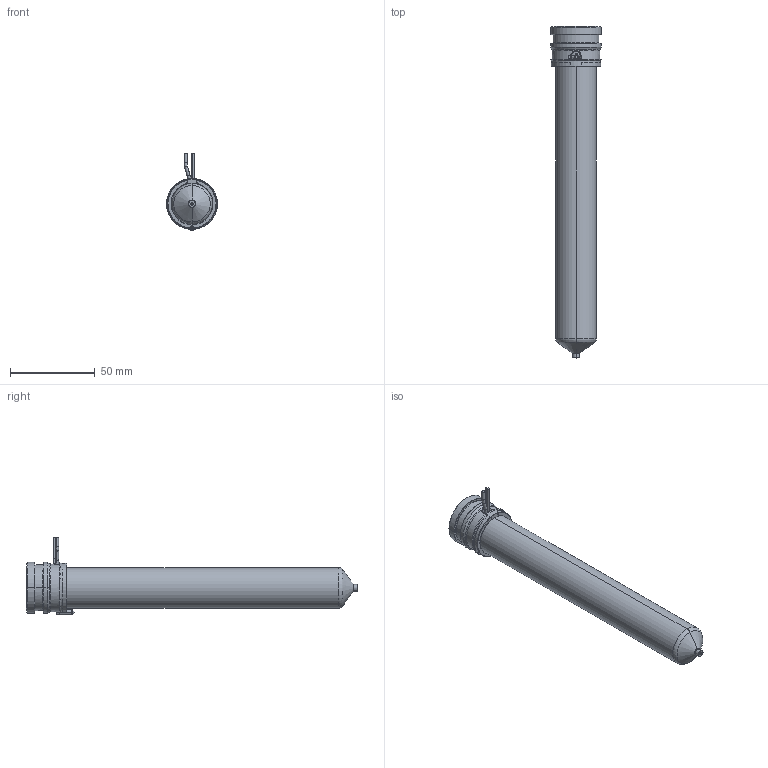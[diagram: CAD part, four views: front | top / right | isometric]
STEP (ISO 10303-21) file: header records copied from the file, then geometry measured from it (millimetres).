
FILE_DESCRIPTION((''),'2;1');
FILE_NAME('MPN-10-29-VP4-176-A','2026-02-05T12:43:28',('UPTIO'),('Thermoplay S.p.A.'),'CREO PARAMETRIC BY PTC INC, 2023494','CREO PARAMETRIC BY PTC INC, 2023494','');
FILE_SCHEMA(('CONFIG_CONTROL_DESIGN','SHAPE_APPEARANCE_LAYERS_GROUPS'));
Length unit declared in the file: millimetre
Products named in the file (1): MPN-10-29-VP4-176-A
Bounding box: 30 x 196.1 x 46 mm (x, y, z)
Volume: 60883.9 mm3; surface area: 61884 mm2
Topology: 2 solids, 3 shells, 580 faces, 1543 edges, 961 vertices
Faces by surface type: cylinder 180, plane 153, bspline 98, torus 70, cone 68, sphere 7, extrusion 4
Entity records: 32883 total; most frequent: CARTESIAN_POINT 15969, ORIENTED_EDGE 3074, DIRECTION 2691, EDGE_CURVE 1537, AXIS2_PLACEMENT_3D 1063, VERTEX_POINT 961, EDGE_LOOP 608, CIRCLE 584
